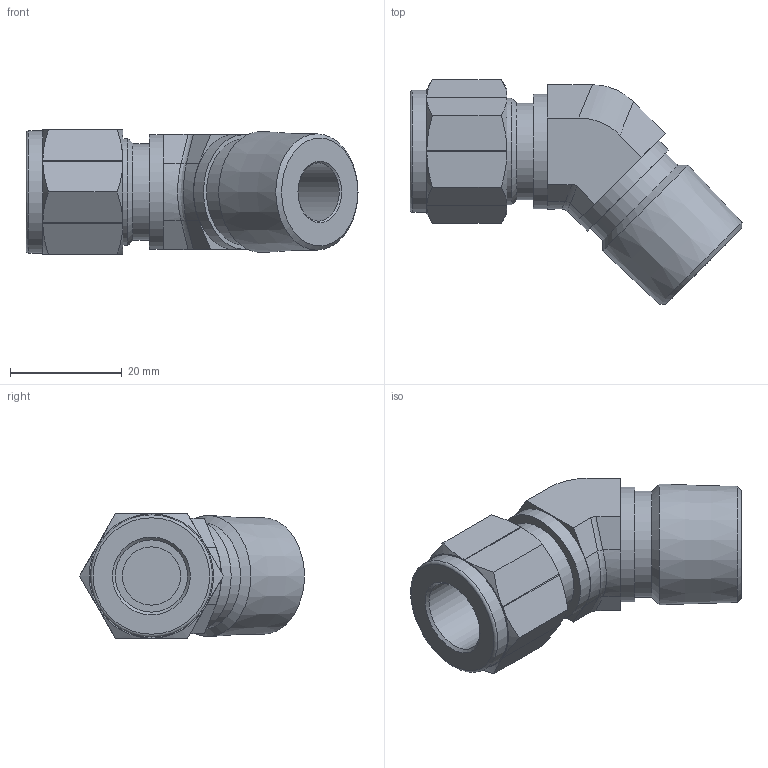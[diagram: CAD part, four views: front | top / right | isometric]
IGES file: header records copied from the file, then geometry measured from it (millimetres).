
Global section: file name: No Iges File Name specified; native system: Autodesk Inventor 2012; preprocessor: AutoDesk Inventor Iges Exporter R2012; author: 硅己绕,, ; organization: 11; date: 20150603.092023; units: millimetre
Bounding box: 59.29 x 40.17 x 22.23 mm (x, y, z)
Volume: 16875.8 mm3; surface area: 6945 mm2
Topology: 1 solids, 1 shells, 75 faces, 152 edges, 89 vertices
Faces by surface type: plane 34, cylinder 16, cone 16, revolution 7, bspline 1, torus 1
Full cylindrical faces by diameter (mm): 17.2 x1, 19 x1, 19.05 x1, 20.5 x2, 21.804 x1
